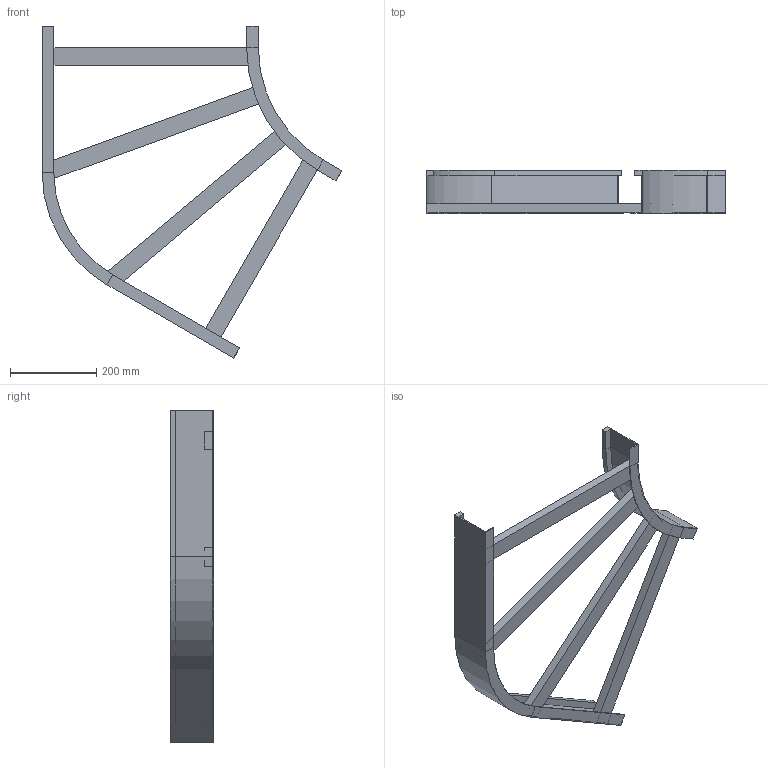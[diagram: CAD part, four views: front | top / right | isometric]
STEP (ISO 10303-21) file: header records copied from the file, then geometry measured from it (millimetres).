
FILE_DESCRIPTION (( 'STEP AP214' ), '1' );
FILE_NAME ('B2_13B3D500.step', '2025-02-21T15:18:23', ( '' ), ( '' ), 'SwSTEP 2.0', 'SolidWorks 2023', '' );
FILE_SCHEMA (( 'AUTOMOTIVE_DESIGN' ));
Length unit declared in the file: millimetre
Products named in the file (5): TRAVERSINO_600_SCANTONATO; TRAVERSINO_500; B2_LONGH.ESTERNO 60°_H100_R300+500; B2_LONGH.INTERNO 60°_H100_R300; B2_13B3D500
Assembly tree (6 placements, depth 2):
  B2_13B3D500
    B2_LONGH.INTERNO 60°_H100_R300
    B2_LONGH.ESTERNO 60°_H100_R300+500
    TRAVERSINO_500  x2
    TRAVERSINO_600_SCANTONATO  x2
Bounding box: 693.3 x 100 x 767.82 mm (x, y, z)
Volume: 2310155.6 mm3; surface area: 662635.7 mm2
Topology: 6 solids, 6 shells, 76 faces, 160 edges, 96 vertices
Faces by surface type: plane 68, cylinder 8
Entity records: 1830 total; most frequent: DIRECTION 298, CARTESIAN_POINT 289, ORIENTED_EDGE 272, EDGE_CURVE 136, LINE 120, VECTOR 120, AXIS2_PLACEMENT_3D 89, VERTEX_POINT 80
